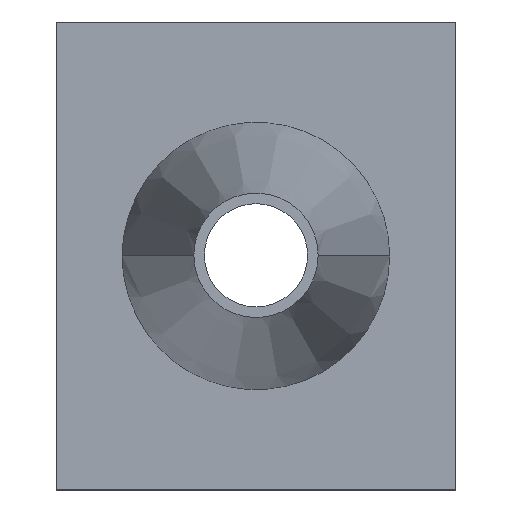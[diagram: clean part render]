
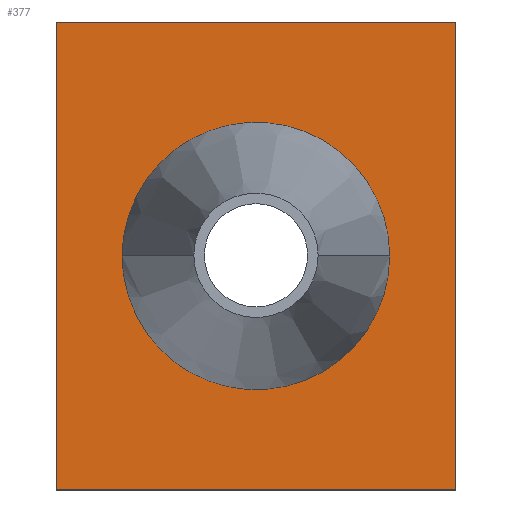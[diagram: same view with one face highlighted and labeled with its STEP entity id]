
A CAD part, top view. The second image highlights one B-rep face of the part: STEP entity #377.
In plain terms, the highlighted planar face has unit normal (0, 0, 1).
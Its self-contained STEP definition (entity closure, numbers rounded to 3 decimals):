
#167=CARTESIAN_POINT('Vertex',(0.,136.,3.)) ;
#174=CARTESIAN_POINT('Vertex',(0.,0.,3.)) ;
#177=CARTESIAN_POINT('Line Origine',(0.,68.,3.)) ;
#198=CARTESIAN_POINT('Vertex',(116.,136.,3.)) ;
#201=CARTESIAN_POINT('Line Origine',(58.,136.,3.)) ;
#222=CARTESIAN_POINT('Vertex',(116.,0.,3.)) ;
#225=CARTESIAN_POINT('Line Origine',(116.,68.,3.)) ;
#242=CARTESIAN_POINT('Line Origine',(58.,0.,3.)) ;
#324=CARTESIAN_POINT('Axis2P3D Location',(0.,0.,3.)) ;
#336=CARTESIAN_POINT('Control Point',(96.853,68.,3.)) ;
#337=CARTESIAN_POINT('Control Point',(96.853,74.122,3.)) ;
#338=CARTESIAN_POINT('Control Point',(95.647,80.245,3.)) ;
#339=CARTESIAN_POINT('Control Point',(93.233,86.051,3.)) ;
#340=CARTESIAN_POINT('Control Point',(86.254,96.398,3.)) ;
#341=CARTESIAN_POINT('Control Point',(75.872,103.325,3.)) ;
#342=CARTESIAN_POINT('Control Point',(70.053,105.709,3.)) ;
#343=CARTESIAN_POINT('Control Point',(57.794,108.059,3.)) ;
#344=CARTESIAN_POINT('Control Point',(45.56,105.583,3.)) ;
#345=CARTESIAN_POINT('Control Point',(39.766,103.139,3.)) ;
#346=CARTESIAN_POINT('Control Point',(29.523,96.152,3.)) ;
#347=CARTESIAN_POINT('Control Point',(22.673,85.823,3.)) ;
#348=CARTESIAN_POINT('Control Point',(20.322,80.085,3.)) ;
#349=CARTESIAN_POINT('Control Point',(19.147,74.042,3.)) ;
#350=CARTESIAN_POINT('Control Point',(19.147,68.,3.)) ;
#351=CARTESIAN_POINT('Vertex',(96.853,68.,3.)) ;
#353=CARTESIAN_POINT('Vertex',(19.147,68.,3.)) ;
#357=CARTESIAN_POINT('Control Point',(96.853,68.,3.)) ;
#358=CARTESIAN_POINT('Control Point',(96.853,61.878,3.)) ;
#359=CARTESIAN_POINT('Control Point',(95.647,55.755,3.)) ;
#360=CARTESIAN_POINT('Control Point',(93.233,49.949,3.)) ;
#361=CARTESIAN_POINT('Control Point',(86.254,39.602,3.)) ;
#362=CARTESIAN_POINT('Control Point',(75.872,32.675,3.)) ;
#363=CARTESIAN_POINT('Control Point',(70.053,30.291,3.)) ;
#364=CARTESIAN_POINT('Control Point',(57.794,27.941,3.)) ;
#365=CARTESIAN_POINT('Control Point',(45.56,30.417,3.)) ;
#366=CARTESIAN_POINT('Control Point',(39.766,32.861,3.)) ;
#367=CARTESIAN_POINT('Control Point',(29.523,39.848,3.)) ;
#368=CARTESIAN_POINT('Control Point',(22.673,50.177,3.)) ;
#369=CARTESIAN_POINT('Control Point',(20.322,55.915,3.)) ;
#370=CARTESIAN_POINT('Control Point',(19.147,61.958,3.)) ;
#371=CARTESIAN_POINT('Control Point',(19.147,68.,3.)) ;
#178=DIRECTION('Vector Direction',(0.,1.,0.)) ;
#202=DIRECTION('Vector Direction',(-1.,0.,0.)) ;
#226=DIRECTION('Vector Direction',(0.,1.,0.)) ;
#243=DIRECTION('Vector Direction',(1.,0.,0.)) ;
#325=DIRECTION('Axis2P3D Direction',(0.,0.,1.)) ;
#326=DIRECTION('Axis2P3D XDirection',(1.,0.,0.)) ;
#327=AXIS2_PLACEMENT_3D('Plane Axis2P3D',#324,#325,#326) ;
#330=ORIENTED_EDGE('',*,*,#181,.F.) ;
#331=ORIENTED_EDGE('',*,*,#246,.T.) ;
#332=ORIENTED_EDGE('',*,*,#229,.T.) ;
#333=ORIENTED_EDGE('',*,*,#205,.T.) ;
#374=ORIENTED_EDGE('',*,*,#355,.F.) ;
#375=ORIENTED_EDGE('',*,*,#372,.T.) ;
#376=FACE_BOUND('',#373,.T.) ;
#179=VECTOR('Line Direction',#178,1.) ;
#203=VECTOR('Line Direction',#202,1.) ;
#227=VECTOR('Line Direction',#226,1.) ;
#244=VECTOR('Line Direction',#243,1.) ;
#377=ADVANCED_FACE('PartBody',(#334,#376),#328,.T.) ;
#335=B_SPLINE_CURVE_WITH_KNOTS('',5,(#336,#337,#338,#339,#340,#341,#342,#343,#344,#345,#346,#347,#348,#349,#350),.UNSPECIFIED.,.F.,.U.,(6,3,3,3,6),(0.,32.814,65.633,98.452,130.837),.UNSPECIFIED.) ;
#356=B_SPLINE_CURVE_WITH_KNOTS('',5,(#357,#358,#359,#360,#361,#362,#363,#364,#365,#366,#367,#368,#369,#370,#371),.UNSPECIFIED.,.F.,.U.,(6,3,3,3,6),(0.,32.814,65.633,98.452,130.837),.UNSPECIFIED.) ;
#181=EDGE_CURVE('',#175,#168,#180,.T.) ;
#205=EDGE_CURVE('',#199,#168,#204,.T.) ;
#229=EDGE_CURVE('',#223,#199,#228,.T.) ;
#246=EDGE_CURVE('',#175,#223,#245,.T.) ;
#355=EDGE_CURVE('',#352,#354,#335,.T.) ;
#372=EDGE_CURVE('',#352,#354,#356,.T.) ;
#329=EDGE_LOOP('',(#330,#331,#332,#333)) ;
#373=EDGE_LOOP('',(#374,#375)) ;
#334=FACE_OUTER_BOUND('',#329,.T.) ;
#180=LINE('Line',#177,#179) ;
#204=LINE('Line',#201,#203) ;
#228=LINE('Line',#225,#227) ;
#245=LINE('Line',#242,#244) ;
#328=PLANE('',#327) ;
#168=VERTEX_POINT('',#167) ;
#175=VERTEX_POINT('',#174) ;
#199=VERTEX_POINT('',#198) ;
#223=VERTEX_POINT('',#222) ;
#352=VERTEX_POINT('',#351) ;
#354=VERTEX_POINT('',#353) ;
